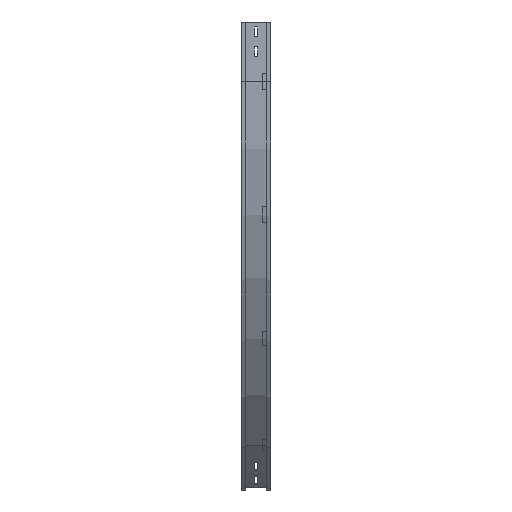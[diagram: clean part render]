
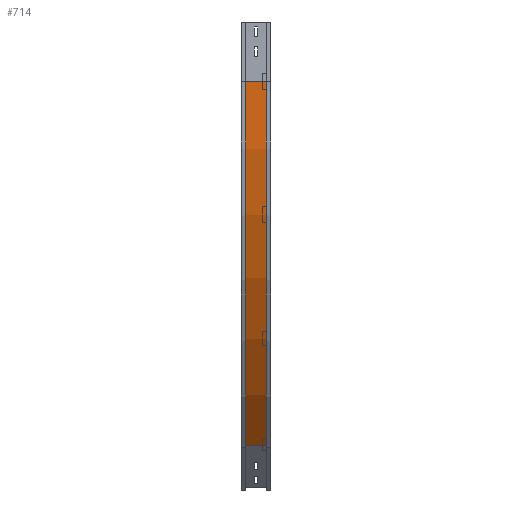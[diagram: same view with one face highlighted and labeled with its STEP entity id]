
A CAD part, left-side view. The second image highlights one B-rep face of the part: STEP entity #714.
In plain terms, the highlighted cylindrical face has radius 1300 mm (diameter 2600 mm), a partial arc.
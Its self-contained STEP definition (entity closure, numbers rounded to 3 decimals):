
#78 = CARTESIAN_POINT ( 'NONE',  ( 9., 12., -150. ) ) ;
#96 = DIRECTION ( 'NONE',  ( 0., -1., 0. ) ) ;
#112 = ORIENTED_EDGE ( 'NONE', *, *, #2223, .F. ) ;
#136 = CARTESIAN_POINT ( 'NONE',  ( 9., 63., -150. ) ) ;
#644 = FACE_OUTER_BOUND ( 'NONE', #751, .T. ) ;
#680 = VERTEX_POINT ( 'NONE', #136 ) ;
#714 = ADVANCED_FACE ( 'NONE', ( #644 ), #2765, .T. ) ;
#751 = EDGE_LOOP ( 'NONE', ( #2562, #112, #3277, #929 ) ) ;
#866 = EDGE_CURVE ( 'NONE', #2736, #2270, #2077, .T. ) ;
#929 = ORIENTED_EDGE ( 'NONE', *, *, #866, .T. ) ;
#1136 = VERTEX_POINT ( 'NONE', #2290 ) ;
#1144 = CARTESIAN_POINT ( 'NONE',  ( 1309., 63., -150. ) ) ;
#1160 = EDGE_CURVE ( 'NONE', #1136, #2270, #2451, .T. ) ;
#1169 = VECTOR ( 'NONE', #2885, 1000. ) ;
#1188 = CARTESIAN_POINT ( 'NONE',  ( 389.761, 12., -1069.239 ) ) ;
#1469 = EDGE_CURVE ( 'NONE', #680, #2736, #1722, .T. ) ;
#1506 = CARTESIAN_POINT ( 'NONE',  ( 1309., 12., -150. ) ) ;
#1706 = CARTESIAN_POINT ( 'NONE',  ( 1309., 0., -150. ) ) ;
#1722 = CIRCLE ( 'NONE', #2919, 1300. ) ;
#1843 = CARTESIAN_POINT ( 'NONE',  ( 389.761, 12., -1069.239 ) ) ;
#1981 = DIRECTION ( 'NONE',  ( 0., -1., 0. ) ) ;
#2077 = LINE ( 'NONE', #1843, #1169 ) ;
#2206 = DIRECTION ( 'NONE',  ( 0., -1., 0. ) ) ;
#2223 = EDGE_CURVE ( 'NONE', #680, #1136, #2505, .T. ) ;
#2270 = VERTEX_POINT ( 'NONE', #1188 ) ;
#2290 = CARTESIAN_POINT ( 'NONE',  ( 9., 12., -150. ) ) ;
#2451 = CIRCLE ( 'NONE', #2975, 1300. ) ;
#2484 = DIRECTION ( 'NONE',  ( -1., 0., 0. ) ) ;
#2505 = LINE ( 'NONE', #78, #2832 ) ;
#2562 = ORIENTED_EDGE ( 'NONE', *, *, #1160, .F. ) ;
#2736 = VERTEX_POINT ( 'NONE', #3021 ) ;
#2747 = DIRECTION ( 'NONE',  ( 0., 0., -1. ) ) ;
#2765 = CYLINDRICAL_SURFACE ( 'NONE', #2861, 1300. ) ;
#2774 = DIRECTION ( 'NONE',  ( -1., 0., 0. ) ) ;
#2832 = VECTOR ( 'NONE', #1981, 1000. ) ;
#2861 = AXIS2_PLACEMENT_3D ( 'NONE', #1706, #3327, #2747 ) ;
#2885 = DIRECTION ( 'NONE',  ( 0., -1., 0. ) ) ;
#2919 = AXIS2_PLACEMENT_3D ( 'NONE', #1144, #2206, #2484 ) ;
#2975 = AXIS2_PLACEMENT_3D ( 'NONE', #1506, #96, #2774 ) ;
#3021 = CARTESIAN_POINT ( 'NONE',  ( 389.761, 63., -1069.239 ) ) ;
#3277 = ORIENTED_EDGE ( 'NONE', *, *, #1469, .T. ) ;
#3327 = DIRECTION ( 'NONE',  ( 0., -1., 0. ) ) ;
